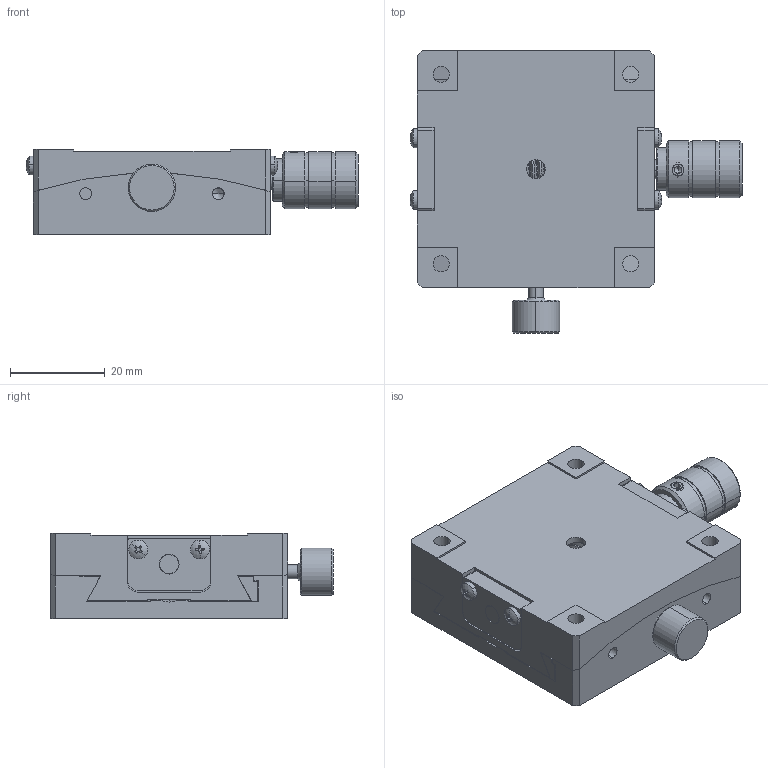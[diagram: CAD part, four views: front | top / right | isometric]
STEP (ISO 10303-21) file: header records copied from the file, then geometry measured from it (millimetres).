
FILE_DESCRIPTION (( 'STEP AP203' ), '1' );
FILE_NAME ('BFSG50-68.STEP', '2024-07-30T01:43:42', ( '微软用户' ), ( '微软中国' ), 'SwSTEP 2.0', 'SolidWorks 2024', '' );
FILE_SCHEMA (( 'CONFIG_CONTROL_DESIGN' ));
Length unit declared in the file: millimetre
Products named in the file (1): BFSG50-68
Bounding box: 70.08 x 59.64 x 18 mm (x, y, z)
Volume: 43136 mm3; surface area: 23337.2 mm2
Topology: 15 solids, 15 shells, 731 faces, 1953 edges, 1270 vertices
Faces by surface type: plane 399, cylinder 213, cone 48, bspline 37, torus 26, sphere 8
Entity records: 30527 total; most frequent: CARTESIAN_POINT 12292, ORIENTED_EDGE 3858, DIRECTION 3683, EDGE_CURVE 1929, VERTEX_POINT 1270, AXIS2_PLACEMENT_3D 1270, VECTOR 1143, LINE 1143
